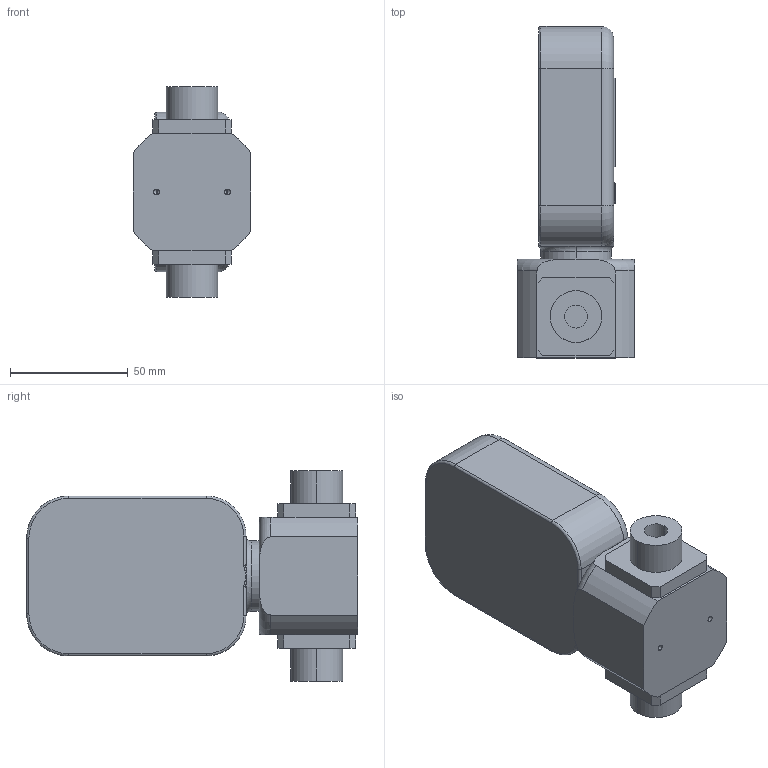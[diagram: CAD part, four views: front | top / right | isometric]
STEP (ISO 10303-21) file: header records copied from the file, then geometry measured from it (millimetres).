
FILE_DESCRIPTION (( 'STEP AP203' ), '1' );
FILE_NAME ('MF5712 流量计3D图 20230513.STEP', '2023-06-02T05:18:00', ( '微软用户' ), ( '微软中国' ), 'SwSTEP 2.0', 'SolidWorks 2016', '' );
FILE_SCHEMA (( 'CONFIG_CONTROL_DESIGN' ));
Length unit declared in the file: millimetre
Products named in the file (1): MF5712 霜講數3D芞 20230513
Bounding box: 50 x 141.1 x 89.6 mm (x, y, z)
Volume: 318178.6 mm3; surface area: 36847.9 mm2
Topology: 1 solids, 1 shells, 165 faces, 393 edges, 237 vertices
Faces by surface type: plane 73, cylinder 51, torus 16, cone 14, bspline 11
Entity records: 6747 total; most frequent: CARTESIAN_POINT 2945, DIRECTION 779, ORIENTED_EDGE 766, EDGE_CURVE 383, AXIS2_PLACEMENT_3D 278, VERTEX_POINT 237, VECTOR 223, LINE 223
